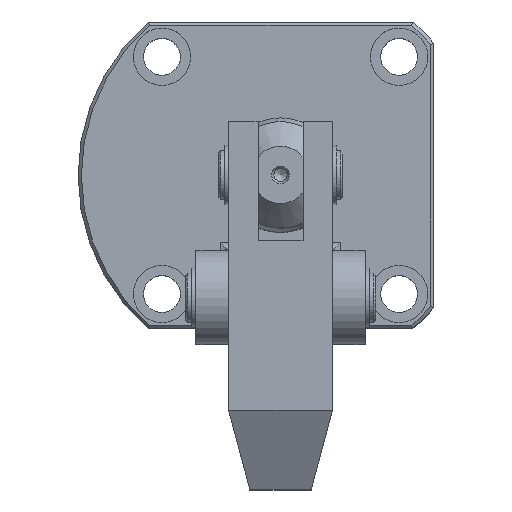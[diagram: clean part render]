
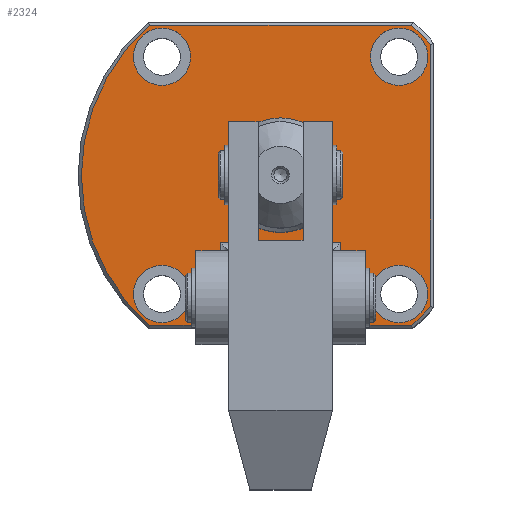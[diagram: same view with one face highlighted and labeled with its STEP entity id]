
A CAD part, top view. The second image highlights one B-rep face of the part: STEP entity #2324.
In plain terms, the highlighted planar face has unit normal (0, 0, 1).
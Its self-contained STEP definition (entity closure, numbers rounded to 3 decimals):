
#167=CIRCLE('',#2601,48.7);
#168=CIRCLE('',#2604,48.7);
#169=CIRCLE('',#2607,48.7);
#170=CIRCLE('',#2610,7.);
#171=CIRCLE('',#2612,7.);
#172=CIRCLE('',#2614,7.);
#173=CIRCLE('',#2616,7.);
#174=CIRCLE('',#2618,14.);
#283=PLANE('',#2619);
#365=LINE('',#3681,#491);
#377=LINE('',#3845,#503);
#378=LINE('',#3859,#504);
#379=LINE('',#3868,#505);
#381=LINE('',#3887,#507);
#382=LINE('',#3889,#508);
#383=LINE('',#3891,#509);
#491=VECTOR('',#2893,1000.);
#503=VECTOR('',#3049,1000.);
#504=VECTOR('',#3056,1000.);
#505=VECTOR('',#3063,1000.);
#507=VECTOR('',#3087,1000.);
#508=VECTOR('',#3088,1000.);
#509=VECTOR('',#3089,1000.);
#759=ORIENTED_EDGE('',*,*,#1268,.T.);
#760=ORIENTED_EDGE('',*,*,#1197,.T.);
#761=ORIENTED_EDGE('',*,*,#1269,.T.);
#762=ORIENTED_EDGE('',*,*,#1270,.T.);
#763=ORIENTED_EDGE('',*,*,#1271,.T.);
#764=ORIENTED_EDGE('',*,*,#1262,.T.);
#765=ORIENTED_EDGE('',*,*,#1261,.T.);
#766=ORIENTED_EDGE('',*,*,#1259,.T.);
#767=ORIENTED_EDGE('',*,*,#1257,.T.);
#768=ORIENTED_EDGE('',*,*,#1255,.T.);
#769=ORIENTED_EDGE('',*,*,#1252,.T.);
#770=ORIENTED_EDGE('',*,*,#1266,.F.);
#771=ORIENTED_EDGE('',*,*,#1265,.F.);
#772=ORIENTED_EDGE('',*,*,#1264,.F.);
#773=ORIENTED_EDGE('',*,*,#1267,.F.);
#1197=EDGE_CURVE('',#1482,#1481,#365,.T.);
#1252=EDGE_CURVE('',#1524,#1482,#167,.T.);
#1255=EDGE_CURVE('',#1525,#1524,#377,.T.);
#1257=EDGE_CURVE('',#1526,#1525,#168,.T.);
#1259=EDGE_CURVE('',#1527,#1526,#378,.T.);
#1261=EDGE_CURVE('',#1528,#1527,#169,.T.);
#1262=EDGE_CURVE('',#1529,#1528,#379,.T.);
#1264=EDGE_CURVE('',#1530,#1530,#170,.T.);
#1265=EDGE_CURVE('',#1531,#1531,#171,.T.);
#1266=EDGE_CURVE('',#1532,#1532,#172,.T.);
#1267=EDGE_CURVE('',#1533,#1533,#173,.T.);
#1268=EDGE_CURVE('',#1534,#1534,#174,.T.);
#1269=EDGE_CURVE('',#1481,#1535,#381,.F.);
#1270=EDGE_CURVE('',#1535,#1536,#382,.F.);
#1271=EDGE_CURVE('',#1536,#1529,#383,.F.);
#1481=VERTEX_POINT('',#3680);
#1482=VERTEX_POINT('',#3682);
#1524=VERTEX_POINT('',#3834);
#1525=VERTEX_POINT('',#3844);
#1526=VERTEX_POINT('',#3851);
#1527=VERTEX_POINT('',#3858);
#1528=VERTEX_POINT('',#3865);
#1529=VERTEX_POINT('',#3869);
#1530=VERTEX_POINT('',#3873);
#1531=VERTEX_POINT('',#3876);
#1532=VERTEX_POINT('',#3879);
#1533=VERTEX_POINT('',#3882);
#1534=VERTEX_POINT('',#3885);
#1535=VERTEX_POINT('',#3888);
#1536=VERTEX_POINT('',#3890);
#1760=EDGE_LOOP('',(#759));
#1761=EDGE_LOOP('',(#760,#761,#762,#763,#764,#765,#766,#767,#768,#769));
#1762=EDGE_LOOP('',(#770));
#1763=EDGE_LOOP('',(#771));
#1764=EDGE_LOOP('',(#772));
#1765=EDGE_LOOP('',(#773));
#2026=FACE_BOUND('',#1760,.T.);
#2027=FACE_BOUND('',#1761,.T.);
#2028=FACE_BOUND('',#1762,.T.);
#2029=FACE_BOUND('',#1763,.T.);
#2030=FACE_BOUND('',#1764,.T.);
#2031=FACE_BOUND('',#1765,.T.);
#2324=ADVANCED_FACE('',(#2026,#2027,#2028,#2029,#2030,#2031),#283,.T.);
#2601=AXIS2_PLACEMENT_3D('',#3833,#3045,#3046);
#2604=AXIS2_PLACEMENT_3D('',#3852,#3052,#3053);
#2607=AXIS2_PLACEMENT_3D('',#3866,#3059,#3060);
#2610=AXIS2_PLACEMENT_3D('',#3872,#3067,#3068);
#2612=AXIS2_PLACEMENT_3D('',#3875,#3071,#3072);
#2614=AXIS2_PLACEMENT_3D('',#3878,#3075,#3076);
#2616=AXIS2_PLACEMENT_3D('',#3881,#3079,#3080);
#2618=AXIS2_PLACEMENT_3D('',#3884,#3083,#3084);
#2619=AXIS2_PLACEMENT_3D('',#3886,#3085,#3086);
#2893=DIRECTION('',(1.,0.,0.));
#3045=DIRECTION('',(0.,0.,1.));
#3046=DIRECTION('',(0.,-1.,0.));
#3049=DIRECTION('',(-1.,0.,0.));
#3052=DIRECTION('',(0.,0.,1.));
#3053=DIRECTION('',(0.,-1.,0.));
#3056=DIRECTION('',(0.,1.,0.));
#3059=DIRECTION('',(0.,0.,1.));
#3060=DIRECTION('',(0.,-1.,0.));
#3063=DIRECTION('',(1.,0.,0.));
#3067=DIRECTION('',(0.,0.,1.));
#3068=DIRECTION('',(1.,0.,0.));
#3071=DIRECTION('',(0.,0.,1.));
#3072=DIRECTION('',(1.,0.,0.));
#3075=DIRECTION('',(0.,0.,1.));
#3076=DIRECTION('',(1.,0.,0.));
#3079=DIRECTION('',(0.,0.,1.));
#3080=DIRECTION('',(1.,0.,0.));
#3083=DIRECTION('',(0.,0.,-1.));
#3084=DIRECTION('',(0.,-1.,0.));
#3085=DIRECTION('',(0.,0.,1.));
#3086=DIRECTION('',(0.,-1.,0.));
#3087=DIRECTION('',(0.,-1.,0.));
#3088=DIRECTION('',(-1.,0.,0.));
#3089=DIRECTION('',(0.,1.,0.));
#3680=CARTESIAN_POINT('',(-28.45,2.8,18.799));
#3681=CARTESIAN_POINT('',(-13.75,2.8,18.799));
#3682=CARTESIAN_POINT('',(-45.762,2.8,18.799));
#3833=CARTESIAN_POINT('',(-13.75,39.5,18.799));
#3834=CARTESIAN_POINT('',(-45.762,76.2,18.799));
#3844=CARTESIAN_POINT('',(18.262,76.2,18.799));
#3845=CARTESIAN_POINT('',(-13.75,76.2,18.799));
#3851=CARTESIAN_POINT('',(22.95,71.512,18.799));
#3852=CARTESIAN_POINT('',(-13.75,39.5,18.799));
#3858=CARTESIAN_POINT('',(22.95,7.488,18.799));
#3859=CARTESIAN_POINT('',(22.95,39.5,18.799));
#3865=CARTESIAN_POINT('',(18.262,2.8,18.799));
#3866=CARTESIAN_POINT('',(-13.75,39.5,18.799));
#3868=CARTESIAN_POINT('',(-13.75,2.8,18.799));
#3869=CARTESIAN_POINT('',(0.95,2.8,18.799));
#3872=CARTESIAN_POINT('',(-42.75,68.5,18.799));
#3873=CARTESIAN_POINT('',(-35.75,68.5,18.799));
#3875=CARTESIAN_POINT('',(15.25,68.5,18.799));
#3876=CARTESIAN_POINT('',(22.25,68.5,18.799));
#3878=CARTESIAN_POINT('',(15.25,10.5,18.799));
#3879=CARTESIAN_POINT('',(22.25,10.5,18.799));
#3881=CARTESIAN_POINT('',(-42.75,10.5,18.799));
#3882=CARTESIAN_POINT('',(-35.75,10.5,18.799));
#3884=CARTESIAN_POINT('',(-13.75,39.5,18.799));
#3885=CARTESIAN_POINT('',(-13.75,25.5,18.799));
#3886=CARTESIAN_POINT('',(-13.75,39.5,18.799));
#3887=CARTESIAN_POINT('',(-28.45,21.,18.799));
#3888=CARTESIAN_POINT('',(-28.45,23.,18.799));
#3889=CARTESIAN_POINT('',(-13.75,23.,18.799));
#3890=CARTESIAN_POINT('',(0.95,23.,18.799));
#3891=CARTESIAN_POINT('',(0.95,39.5,18.799));
